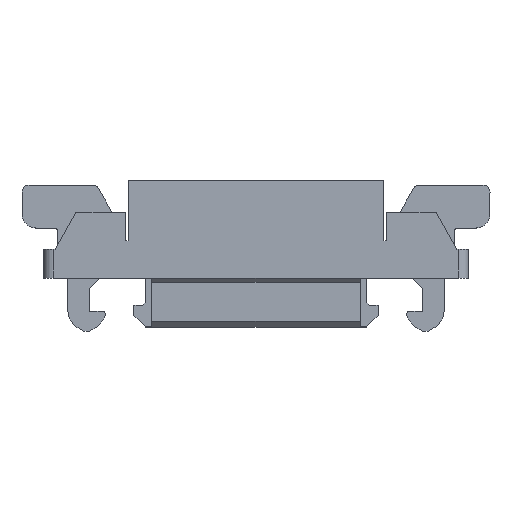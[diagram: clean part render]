
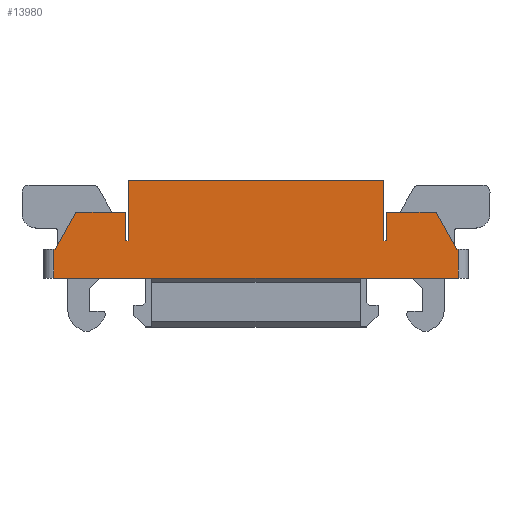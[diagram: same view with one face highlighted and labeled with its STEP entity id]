
A CAD part, top view. The second image highlights one B-rep face of the part: STEP entity #13980.
In plain terms, the highlighted planar face has unit normal (0, 0, 1).
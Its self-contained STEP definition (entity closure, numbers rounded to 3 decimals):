
#280=CARTESIAN_POINT('',(37.581,-18.28,6.6));
#290=VERTEX_POINT('',#280);
#320=CARTESIAN_POINT('',(6.35,-18.28,6.6));
#330=DIRECTION('',(1.,0.,0.));
#340=VECTOR('',#330,1.);
#350=LINE('',#320,#340);
#360=CARTESIAN_POINT('',(37.481,-18.28,6.6));
#370=VERTEX_POINT('',#360);
#380=EDGE_CURVE('',#370,#290,#350,.T.);
#12760=CARTESIAN_POINT('',(54.771,-18.98,
6.6));
#12770=DIRECTION('',(0.,0.,1.));
#12780=DIRECTION('',(1.,0.,0.));
#12790=AXIS2_PLACEMENT_3D('',#12760,#12770,#12780);
#12800=PLANE('',#12790);
#12810=ORIENTED_EDGE('',*,*,#380,.F.);
#12820=CARTESIAN_POINT('',(47.775,0.,6.6));
#12830=DIRECTION('',(0.487,0.873,0.));
#12840=VECTOR('',#12830,1.);
#12850=LINE('',#12820,#12840);
#12860=CARTESIAN_POINT('',(39.031,-15.68,
6.6));
#12870=VERTEX_POINT('',#12860);
#12880=EDGE_CURVE('',#290,#12870,#12850,.T.);
#12890=ORIENTED_EDGE('',*,*,#12880,.F.);
#12900=CARTESIAN_POINT('',(6.35,-15.68,6.6));
#12910=DIRECTION('',(1.,0.,0.));
#12920=VECTOR('',#12910,1.);
#12930=LINE('',#12900,#12920);
#12940=CARTESIAN_POINT('',(42.481,-15.68,
6.6));
#12950=VERTEX_POINT('',#12940);
#12960=EDGE_CURVE('',#12870,#12950,#12930,.T.);
#12970=ORIENTED_EDGE('',*,*,#12960,.F.);
#12980=CARTESIAN_POINT('',(42.481,0.,6.6));
#12990=DIRECTION('',(0.,-1.,0.));
#13000=VECTOR('',#12990,1.);
#13010=LINE('',#12980,#13000);
#13020=CARTESIAN_POINT('',(42.481,-17.68,
6.6));
#13030=VERTEX_POINT('',#13020);
#13040=EDGE_CURVE('',#12950,#13030,#13010,.T.);
#13050=ORIENTED_EDGE('',*,*,#13040,.F.);
#13060=CARTESIAN_POINT('',(24.13,-17.68,
6.6));
#13070=DIRECTION('',(1.,0.,0.));
#13080=VECTOR('',#13070,1.);
#13090=LINE('',#13060,#13080);
#13100=CARTESIAN_POINT('',(42.681,-17.68,
6.6));
#13110=VERTEX_POINT('',#13100);
#13120=EDGE_CURVE('',#13030,#13110,#13090,.T.);
#13130=ORIENTED_EDGE('',*,*,#13120,.F.);
#13140=CARTESIAN_POINT('',(42.681,-16.08,6.6));
#13150=DIRECTION('',(0.,-1.,0.));
#13160=VECTOR('',#13150,1.);
#13170=LINE('',#13140,#13160);
#13180=CARTESIAN_POINT('',(42.681,-13.48,
6.6));
#13190=VERTEX_POINT('',#13180);
#13200=EDGE_CURVE('',#13190,#13110,#13170,.T.);
#13210=ORIENTED_EDGE('',*,*,#13200,.T.);
#13220=CARTESIAN_POINT('',(25.003,-13.48,
6.6));
#13230=DIRECTION('',(1.,0.,0.));
#13240=VECTOR('',#13230,1.);
#13250=LINE('',#13220,#13240);
#13260=CARTESIAN_POINT('',(60.511,-13.48,
6.6));
#13270=VERTEX_POINT('',#13260);
#13280=EDGE_CURVE('',#13190,#13270,#13250,.T.);
#13290=ORIENTED_EDGE('',*,*,#13280,.F.);
#13300=CARTESIAN_POINT('',(60.511,-17.68,
6.6));
#13310=DIRECTION('',(0.,1.,0.));
#13320=VECTOR('',#13310,1.);
#13330=LINE('',#13300,#13320);
#13340=CARTESIAN_POINT('',(60.511,-17.68,
6.6));
#13350=VERTEX_POINT('',#13340);
#13360=EDGE_CURVE('',#13350,#13270,#13330,.T.);
#13370=ORIENTED_EDGE('',*,*,#13360,.T.);
#13380=CARTESIAN_POINT('',(60.711,-17.68,
6.6));
#13390=VERTEX_POINT('',#13380);
#13400=EDGE_CURVE('',#13350,#13390,#13090,.T.);
#13410=ORIENTED_EDGE('',*,*,#13400,.F.);
#13420=CARTESIAN_POINT('',(60.711,0.,6.6));
#13430=DIRECTION('',(0.,1.,0.));
#13440=VECTOR('',#13430,1.);
#13450=LINE('',#13420,#13440);
#13460=CARTESIAN_POINT('',(60.711,-15.68,
6.6));
#13470=VERTEX_POINT('',#13460);
#13480=EDGE_CURVE('',#13390,#13470,#13450,.T.);
#13490=ORIENTED_EDGE('',*,*,#13480,.F.);
#13500=CARTESIAN_POINT('',(0.,-15.68,6.6));
#13510=DIRECTION('',(1.,0.,0.));
#13520=VECTOR('',#13510,1.);
#13530=LINE('',#13500,#13520);
#13540=CARTESIAN_POINT('',(64.161,-15.68,
6.6));
#13550=VERTEX_POINT('',#13540);
#13560=EDGE_CURVE('',#13470,#13550,#13530,.T.);
#13570=ORIENTED_EDGE('',*,*,#13560,.F.);
#13580=CARTESIAN_POINT('',(55.416,0.,6.6));
#13590=DIRECTION('',(0.487,-0.873,0.));
#13600=VECTOR('',#13590,1.);
#13610=LINE('',#13580,#13600);
#13620=CARTESIAN_POINT('',(65.611,-18.28,6.6)
);
#13630=VERTEX_POINT('',#13620);
#13640=EDGE_CURVE('',#13550,#13630,#13610,.T.);
#13650=ORIENTED_EDGE('',*,*,#13640,.F.);
#13660=CARTESIAN_POINT('',(0.,-18.28,6.6));
#13670=DIRECTION('',(1.,0.,0.));
#13680=VECTOR('',#13670,1.);
#13690=LINE('',#13660,#13680);
#13700=CARTESIAN_POINT('',(65.711,-18.28,6.6)
);
#13710=VERTEX_POINT('',#13700);
#13720=EDGE_CURVE('',#13630,#13710,#13690,.T.);
#13730=ORIENTED_EDGE('',*,*,#13720,.F.);
#13740=CARTESIAN_POINT('',(65.711,0.,6.6));
#13750=DIRECTION('',(0.,-1.,0.));
#13760=VECTOR('',#13750,1.);
#13770=LINE('',#13740,#13760);
#13780=CARTESIAN_POINT('',(65.711,-20.28,6.6)
);
#13790=VERTEX_POINT('',#13780);
#13800=EDGE_CURVE('',#13710,#13790,#13770,.T.);
#13810=ORIENTED_EDGE('',*,*,#13800,.F.);
#13820=CARTESIAN_POINT('',(19.05,-20.28,6.6));
#13830=DIRECTION('',(1.,0.,0.));
#13840=VECTOR('',#13830,1.);
#13850=LINE('',#13820,#13840);
#13860=CARTESIAN_POINT('',(37.481,-20.28,
6.6));
#13870=VERTEX_POINT('',#13860);
#13880=EDGE_CURVE('',#13870,#13790,#13850,.T.);
#13890=ORIENTED_EDGE('',*,*,#13880,.T.);
#13900=CARTESIAN_POINT('',(37.481,0.,6.6));
#13910=DIRECTION('',(0.,-1.,0.));
#13920=VECTOR('',#13910,1.);
#13930=LINE('',#13900,#13920);
#13940=EDGE_CURVE('',#370,#13870,#13930,.T.);
#13950=ORIENTED_EDGE('',*,*,#13940,.T.);
#13960=EDGE_LOOP('',(#13950,#13890,#13810,#13730,#13650,#13570,#13490,
#13410,#13370,#13290,#13210,#13130,#13050,#12970,#12890,#12810));
#13970=FACE_OUTER_BOUND('',#13960,.T.);
#13980=ADVANCED_FACE('',(#13970),#12800,.T.);
